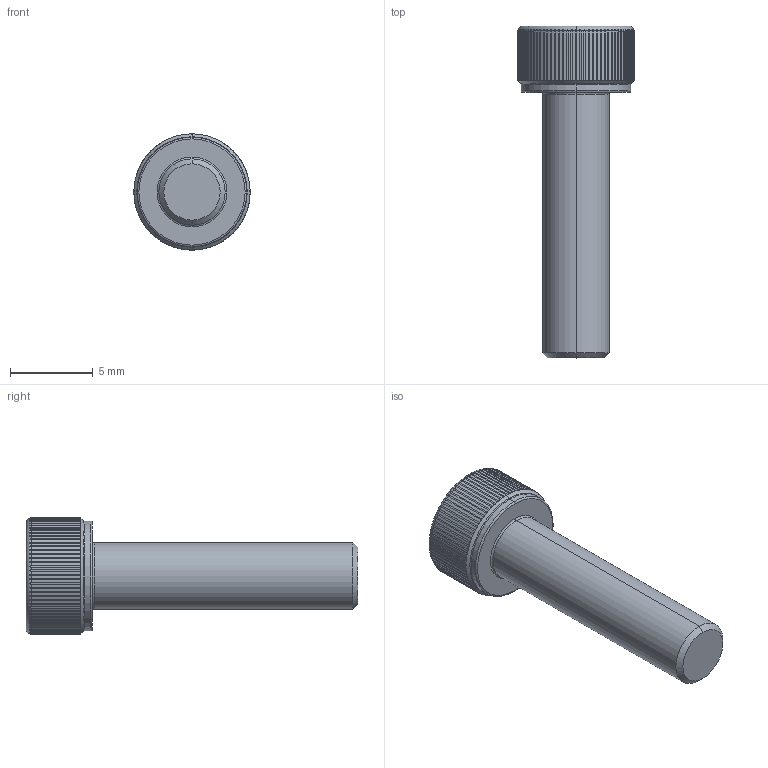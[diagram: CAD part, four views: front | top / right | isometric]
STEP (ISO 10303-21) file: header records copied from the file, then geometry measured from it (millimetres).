
FILE_DESCRIPTION (( 'STEP AP203' ), '1' );
FILE_NAME ('LGDT-304-M4x16.STEP', '2026-08-10T01:33:53', ( '' ), ( '' ), 'SwSTEP 2.0', 'SolidWorks 2020', '' );
FILE_SCHEMA (( 'CONFIG_CONTROL_DESIGN' ));
Length unit declared in the file: millimetre
Products named in the file (1): LGDT-304-M4x16
Bounding box: 7 x 20 x 7 mm (x, y, z)
Volume: 331.8 mm3; surface area: 382.2 mm2
Topology: 1 solids, 1 shells, 216 faces, 612 edges, 400 vertices
Faces by surface type: cylinder 187, cone 11, plane 10, torus 8
Entity records: 10634 total; most frequent: CARTESIAN_POINT 5163, ORIENTED_EDGE 1224, DIRECTION 1048, EDGE_CURVE 612, AXIS2_PLACEMENT_3D 422, VERTEX_POINT 400, EDGE_LOOP 218, ADVANCED_FACE 216
